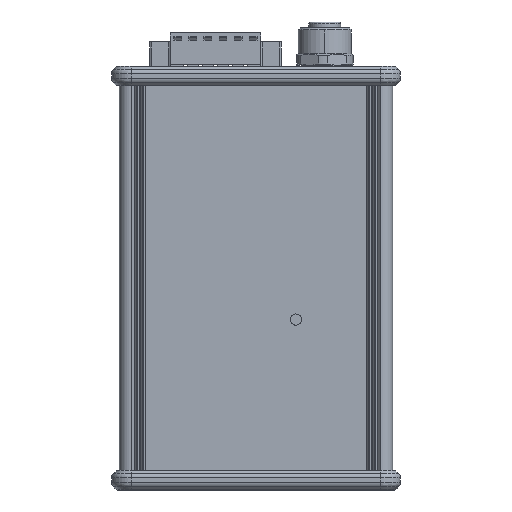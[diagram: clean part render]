
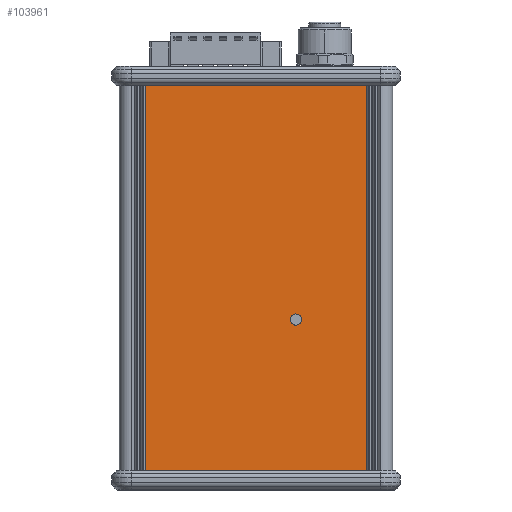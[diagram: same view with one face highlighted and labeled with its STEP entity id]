
A CAD part, front view. The second image highlights one B-rep face of the part: STEP entity #103961.
In plain terms, the highlighted planar face has unit normal (0, -1, 0).
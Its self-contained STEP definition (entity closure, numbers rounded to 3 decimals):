
#244 = AXIS2_PLACEMENT_3D ( 'NONE', #11312, #9692, #26082 ) ;
#6946 = VECTOR ( 'NONE', #44616, 1000. ) ;
#9105 = CARTESIAN_POINT ( 'NONE',  ( 6.7, -14.28, 100. ) ) ;
#9692 = DIRECTION ( 'NONE',  ( 0., -1., 0. ) ) ;
#9853 = CARTESIAN_POINT ( 'NONE',  ( 62.4, -14.28, 0. ) ) ;
#11312 = CARTESIAN_POINT ( 'NONE',  ( 44.65, -14.28, 39.5 ) ) ;
#11463 = LINE ( 'NONE', #9853, #73882 ) ;
#12329 = ORIENTED_EDGE ( 'NONE', *, *, #24858, .F. ) ;
#12694 = CARTESIAN_POINT ( 'NONE',  ( 62.4, -14.28, 0. ) ) ;
#14206 = ORIENTED_EDGE ( 'NONE', *, *, #19273, .T. ) ;
#14645 = CARTESIAN_POINT ( 'NONE',  ( 44.65, -14.28, 39.5 ) ) ;
#17100 = EDGE_LOOP ( 'NONE', ( #45197, #14206, #59542, #19219 ) ) ;
#18662 = EDGE_CURVE ( 'NONE', #45390, #73343, #11463, .T. ) ;
#19219 = ORIENTED_EDGE ( 'NONE', *, *, #106942, .T. ) ;
#19273 = EDGE_CURVE ( 'NONE', #73343, #94477, #82105, .T. ) ;
#19780 = AXIS2_PLACEMENT_3D ( 'NONE', #12694, #48661, #49206 ) ;
#20889 = PLANE ( 'NONE',  #19780 ) ;
#24858 = EDGE_CURVE ( 'NONE', #47494, #96192, #92638, .T. ) ;
#26082 = DIRECTION ( 'NONE',  ( 0., 0., -1. ) ) ;
#27739 = LINE ( 'NONE', #45688, #6946 ) ;
#29041 = CARTESIAN_POINT ( 'NONE',  ( 44.65, -14.28, 40.925 ) ) ;
#29085 = FACE_BOUND ( 'NONE', #66183, .T. ) ;
#30606 = AXIS2_PLACEMENT_3D ( 'NONE', #14645, #97092, #105295 ) ;
#42472 = ORIENTED_EDGE ( 'NONE', *, *, #105670, .F. ) ;
#44616 = DIRECTION ( 'NONE',  ( 1., 0., 0. ) ) ;
#45197 = ORIENTED_EDGE ( 'NONE', *, *, #18662, .T. ) ;
#45286 = CARTESIAN_POINT ( 'NONE',  ( 6.7, -14.28, 0. ) ) ;
#45390 = VERTEX_POINT ( 'NONE', #45286 ) ;
#45688 = CARTESIAN_POINT ( 'NONE',  ( 30.419, -14.28, 100. ) ) ;
#47494 = VERTEX_POINT ( 'NONE', #29041 ) ;
#48661 = DIRECTION ( 'NONE',  ( 0., -1., 0. ) ) ;
#49206 = DIRECTION ( 'NONE',  ( 0., 0., -1. ) ) ;
#56043 = VECTOR ( 'NONE', #59167, 1000. ) ;
#59167 = DIRECTION ( 'NONE',  ( 0., 0., 1. ) ) ;
#59542 = ORIENTED_EDGE ( 'NONE', *, *, #89363, .F. ) ;
#60223 = CARTESIAN_POINT ( 'NONE',  ( 62.4, -14.28, 0. ) ) ;
#62357 = FACE_OUTER_BOUND ( 'NONE', #17100, .T. ) ;
#66183 = EDGE_LOOP ( 'NONE', ( #12329, #42472 ) ) ;
#67038 = DIRECTION ( 'NONE',  ( 0., 0., -1. ) ) ;
#67379 = CARTESIAN_POINT ( 'NONE',  ( 44.65, -14.28, 38.075 ) ) ;
#68299 = DIRECTION ( 'NONE',  ( 1., 0., 0. ) ) ;
#73343 = VERTEX_POINT ( 'NONE', #60223 ) ;
#73882 = VECTOR ( 'NONE', #68299, 1000. ) ;
#82105 = LINE ( 'NONE', #83733, #56043 ) ;
#83017 = VECTOR ( 'NONE', #67038, 1000. ) ;
#83733 = CARTESIAN_POINT ( 'NONE',  ( 62.4, -14.28, 0. ) ) ;
#89363 = EDGE_CURVE ( 'NONE', #91113, #94477, #27739, .T. ) ;
#91113 = VERTEX_POINT ( 'NONE', #9105 ) ;
#92142 = LINE ( 'NONE', #99271, #83017 ) ;
#92638 = CIRCLE ( 'NONE', #244, 1.425 ) ;
#94477 = VERTEX_POINT ( 'NONE', #107375 ) ;
#96192 = VERTEX_POINT ( 'NONE', #67379 ) ;
#97092 = DIRECTION ( 'NONE',  ( 0., -1., 0. ) ) ;
#99271 = CARTESIAN_POINT ( 'NONE',  ( 6.7, -14.28, 0. ) ) ;
#103961 = ADVANCED_FACE ( 'NONE', ( #29085, #62357 ), #20889, .T. ) ;
#105295 = DIRECTION ( 'NONE',  ( 0., 0., -1. ) ) ;
#105565 = CIRCLE ( 'NONE', #30606, 1.425 ) ;
#105670 = EDGE_CURVE ( 'NONE', #96192, #47494, #105565, .T. ) ;
#106942 = EDGE_CURVE ( 'NONE', #91113, #45390, #92142, .T. ) ;
#107375 = CARTESIAN_POINT ( 'NONE',  ( 62.4, -14.28, 100. ) ) ;
